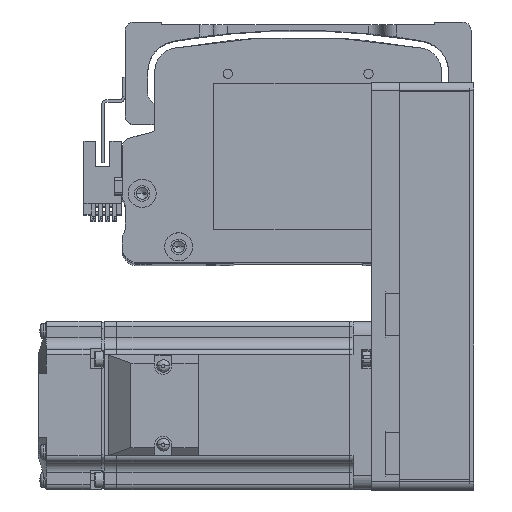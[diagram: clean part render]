
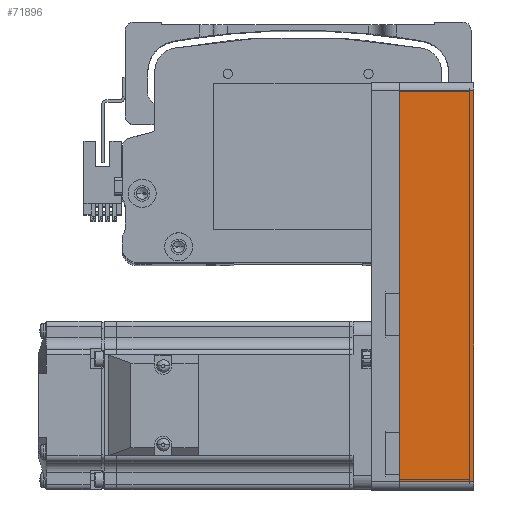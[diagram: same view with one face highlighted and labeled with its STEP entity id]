
A CAD part, top view. The second image highlights one B-rep face of the part: STEP entity #71896.
In plain terms, the highlighted planar face has unit normal (0, 0, 1) as drawn and (0, -1, 0) by its records, which use the part's own axes.
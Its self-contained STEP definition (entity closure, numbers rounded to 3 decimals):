
#1675 = CARTESIAN_POINT ( 'NONE',  ( 72.5, -30., 0. ) ) ;
#2428 = CARTESIAN_POINT ( 'NONE',  ( 72.5, -30., 26.5 ) ) ;
#2503 = EDGE_CURVE ( 'NONE', #51798, #75238, #43988, .T. ) ;
#8644 = DIRECTION ( 'NONE',  ( 1., 0., 0. ) ) ;
#10928 = CARTESIAN_POINT ( 'NONE',  ( -69.5, -30., 0. ) ) ;
#11044 = VECTOR ( 'NONE', #51257, 1000. ) ;
#19031 = DIRECTION ( 'NONE',  ( 0., 0., 1. ) ) ;
#19303 = EDGE_LOOP ( 'NONE', ( #28834, #79938, #42641, #55515 ) ) ;
#27906 = VERTEX_POINT ( 'NONE', #53873 ) ;
#28834 = ORIENTED_EDGE ( 'NONE', *, *, #2503, .T. ) ;
#30605 = CARTESIAN_POINT ( 'NONE',  ( 69.5, -30., 0. ) ) ;
#32923 = DIRECTION ( 'NONE',  ( 0., 0., -1. ) ) ;
#33402 = VECTOR ( 'NONE', #8644, 1000. ) ;
#34485 = DIRECTION ( 'NONE',  ( 0., 1., 0. ) ) ;
#38277 = FACE_OUTER_BOUND ( 'NONE', #19303, .T. ) ;
#39542 = VECTOR ( 'NONE', #19031, 1000. ) ;
#42641 = ORIENTED_EDGE ( 'NONE', *, *, #52634, .F. ) ;
#43497 = VERTEX_POINT ( 'NONE', #76237 ) ;
#43988 = LINE ( 'NONE', #1675, #11044 ) ;
#45342 = CARTESIAN_POINT ( 'NONE',  ( -69.5, -30., 26.5 ) ) ;
#46515 = LINE ( 'NONE', #45342, #61019 ) ;
#46664 = PLANE ( 'NONE',  #65357 ) ;
#46690 = EDGE_CURVE ( 'NONE', #75238, #27906, #74424, .T. ) ;
#51257 = DIRECTION ( 'NONE',  ( 1., 0., 0. ) ) ;
#51798 = VERTEX_POINT ( 'NONE', #10928 ) ;
#52634 = EDGE_CURVE ( 'NONE', #43497, #27906, #66337, .T. ) ;
#53873 = CARTESIAN_POINT ( 'NONE',  ( 69.5, -30., 26.5 ) ) ;
#55500 = EDGE_CURVE ( 'NONE', #43497, #51798, #46515, .T. ) ;
#55515 = ORIENTED_EDGE ( 'NONE', *, *, #55500, .T. ) ;
#61019 = VECTOR ( 'NONE', #32923, 1000. ) ;
#62371 = CARTESIAN_POINT ( 'NONE',  ( 69.5, -30., 26.5 ) ) ;
#65357 = AXIS2_PLACEMENT_3D ( 'NONE', #71597, #34485, #77804 ) ;
#66337 = LINE ( 'NONE', #2428, #33402 ) ;
#71597 = CARTESIAN_POINT ( 'NONE',  ( 72.5, -30., 26.5 ) ) ;
#71896 = ADVANCED_FACE ( 'NONE', ( #38277 ), #46664, .F. ) ;
#74424 = LINE ( 'NONE', #62371, #39542 ) ;
#75238 = VERTEX_POINT ( 'NONE', #30605 ) ;
#76237 = CARTESIAN_POINT ( 'NONE',  ( -69.5, -30., 26.5 ) ) ;
#77804 = DIRECTION ( 'NONE',  ( -1., 0., 0. ) ) ;
#79938 = ORIENTED_EDGE ( 'NONE', *, *, #46690, .T. ) ;
